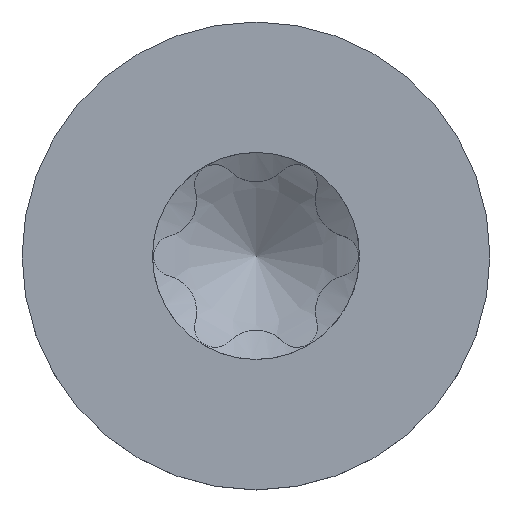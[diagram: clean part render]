
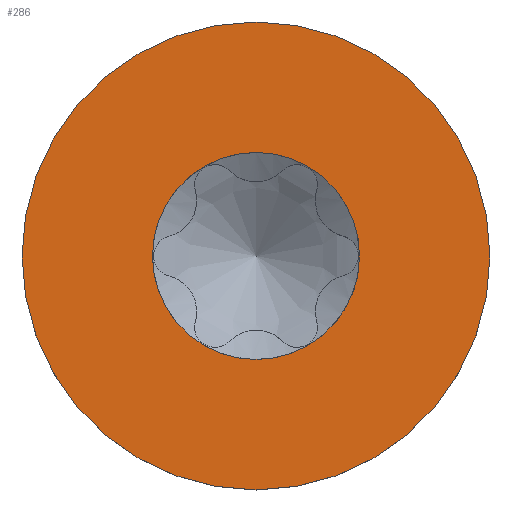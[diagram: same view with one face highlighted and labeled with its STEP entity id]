
A CAD part, top view. The second image highlights one B-rep face of the part: STEP entity #286.
In plain terms, the highlighted planar face has unit normal (0, 0, 1).
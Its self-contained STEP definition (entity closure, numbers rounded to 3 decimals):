
#242=PLANE('',#1499);
#249=FACE_BOUND('',#464,.T.);
#250=FACE_BOUND('',#465,.T.);
#286=ADVANCED_FACE('',(#249,#250),#242,.F.);
#464=EDGE_LOOP('',(#622));
#465=EDGE_LOOP('',(#623));
#560=CIRCLE('',#1497,0.885);
#561=CIRCLE('',#1498,2.);
#622=ORIENTED_EDGE('',*,*,#1186,.F.);
#623=ORIENTED_EDGE('',*,*,#1187,.F.);
#1045=VERTEX_POINT('',#3562);
#1046=VERTEX_POINT('',#3564);
#1186=EDGE_CURVE('',#1045,#1045,#560,.T.);
#1187=EDGE_CURVE('',#1046,#1046,#561,.T.);
#1497=AXIS2_PLACEMENT_3D('',#3561,#1548,#1549);
#1498=AXIS2_PLACEMENT_3D('',#3563,#1550,#1551);
#1499=AXIS2_PLACEMENT_3D('',#3565,#1552,#1553);
#1548=DIRECTION('',(0.,0.,1.));
#1549=DIRECTION('',(-1.,0.,0.));
#1550=DIRECTION('',(0.,0.,-1.));
#1551=DIRECTION('',(-1.,0.,0.));
#1552=DIRECTION('',(0.,0.,-1.));
#1553=DIRECTION('',(-1.,0.,0.));
#3561=CARTESIAN_POINT('',(0.,0.,1.56));
#3562=CARTESIAN_POINT('',(-0.885,0.,1.56));
#3563=CARTESIAN_POINT('',(0.,0.,1.56));
#3564=CARTESIAN_POINT('',(-2.,0.,1.56));
#3565=CARTESIAN_POINT('',(0.,0.,1.56));
